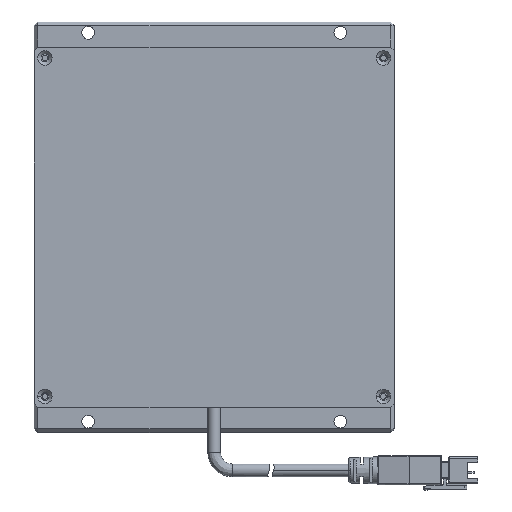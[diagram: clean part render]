
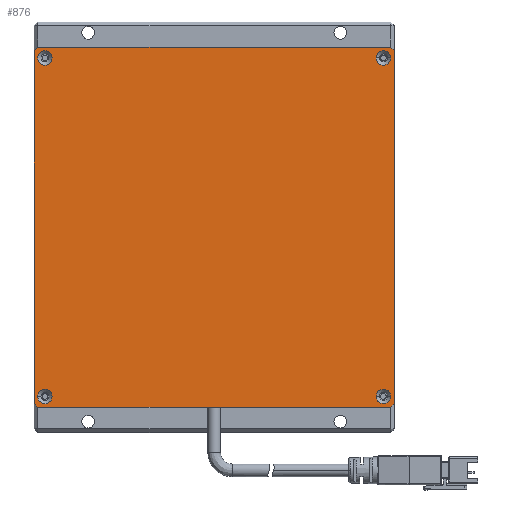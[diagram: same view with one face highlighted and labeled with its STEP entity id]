
A CAD part, top view. The second image highlights one B-rep face of the part: STEP entity #876.
In plain terms, the highlighted planar face has unit normal (0, 0, 1).
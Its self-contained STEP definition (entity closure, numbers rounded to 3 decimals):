
#20 = DIRECTION ( 'NONE',  ( 1., 0., 0. ) ) ;
#124 = AXIS2_PLACEMENT_3D ( 'NONE', #2387, #6393, #7849 ) ;
#209 = LINE ( 'NONE', #1080, #8712 ) ;
#248 = VECTOR ( 'NONE', #418, 1000. ) ;
#275 = DIRECTION ( 'NONE',  ( 1., 0., 0. ) ) ;
#287 = LINE ( 'NONE', #5778, #5285 ) ;
#323 = EDGE_CURVE ( 'NONE', #4652, #1446, #4066, .T. ) ;
#411 = DIRECTION ( 'NONE',  ( 0., -1., 0. ) ) ;
#418 = DIRECTION ( 'NONE',  ( 0., 1., 0. ) ) ;
#542 = FACE_BOUND ( 'NONE', #4070, .T. ) ;
#606 = DIRECTION ( 'NONE',  ( 1., 0., 0. ) ) ;
#725 = DIRECTION ( 'NONE',  ( 0., 0., 1. ) ) ;
#876 = ADVANCED_FACE ( 'NONE', ( #5039, #6847, #6530, #542, #6307 ), #4056, .F. ) ;
#998 = DIRECTION ( 'NONE',  ( -0.707, 0.707, 0. ) ) ;
#1041 = DIRECTION ( 'NONE',  ( 0., 0., 1. ) ) ;
#1060 = EDGE_CURVE ( 'NONE', #1251, #4838, #5546, .T. ) ;
#1067 = ORIENTED_EDGE ( 'NONE', *, *, #3858, .T. ) ;
#1080 = CARTESIAN_POINT ( 'NONE',  ( -50., 49., 20. ) ) ;
#1094 = EDGE_CURVE ( 'NONE', #4958, #2196, #5439, .T. ) ;
#1099 = CARTESIAN_POINT ( 'NONE',  ( -49., -50., 20. ) ) ;
#1117 = VERTEX_POINT ( 'NONE', #8683 ) ;
#1123 = DIRECTION ( 'NONE',  ( 1., 0., 0. ) ) ;
#1149 = VERTEX_POINT ( 'NONE', #1190 ) ;
#1190 = CARTESIAN_POINT ( 'NONE',  ( 45., -47., 20. ) ) ;
#1234 = CARTESIAN_POINT ( 'NONE',  ( 47., -47., 20. ) ) ;
#1251 = VERTEX_POINT ( 'NONE', #6088 ) ;
#1293 = DIRECTION ( 'NONE',  ( 0., 0., -1. ) ) ;
#1347 = EDGE_CURVE ( 'NONE', #8634, #4154, #8743, .T. ) ;
#1404 = EDGE_LOOP ( 'NONE', ( #8297, #4397, #4645, #2910, #2060, #3504, #6021, #1067 ) ) ;
#1446 = VERTEX_POINT ( 'NONE', #6418 ) ;
#1460 = DIRECTION ( 'NONE',  ( 1., 0., 0. ) ) ;
#1591 = CARTESIAN_POINT ( 'NONE',  ( -45., 47., 20. ) ) ;
#1660 = AXIS2_PLACEMENT_3D ( 'NONE', #3419, #6162, #20 ) ;
#1759 = DIRECTION ( 'NONE',  ( 0., 0., 1. ) ) ;
#1779 = LINE ( 'NONE', #7220, #2049 ) ;
#1828 = VERTEX_POINT ( 'NONE', #4939 ) ;
#1915 = EDGE_CURVE ( 'NONE', #4953, #2336, #8736, .T. ) ;
#2049 = VECTOR ( 'NONE', #7272, 1000. ) ;
#2060 = ORIENTED_EDGE ( 'NONE', *, *, #323, .T. ) ;
#2135 = VECTOR ( 'NONE', #4373, 1000. ) ;
#2196 = VERTEX_POINT ( 'NONE', #6694 ) ;
#2231 = ORIENTED_EDGE ( 'NONE', *, *, #4817, .F. ) ;
#2336 = VERTEX_POINT ( 'NONE', #5609 ) ;
#2387 = CARTESIAN_POINT ( 'NONE',  ( -47., -47., 20. ) ) ;
#2706 = EDGE_LOOP ( 'NONE', ( #5951, #7276 ) ) ;
#2792 = EDGE_LOOP ( 'NONE', ( #6367, #8650 ) ) ;
#2825 = ORIENTED_EDGE ( 'NONE', *, *, #1060, .F. ) ;
#2896 = EDGE_CURVE ( 'NONE', #5247, #1117, #5754, .T. ) ;
#2910 = ORIENTED_EDGE ( 'NONE', *, *, #4554, .T. ) ;
#2963 = CARTESIAN_POINT ( 'NONE',  ( 49., 47., 20. ) ) ;
#2965 = CARTESIAN_POINT ( 'NONE',  ( -47., -47., 20. ) ) ;
#2966 = CIRCLE ( 'NONE', #4038, 2. ) ;
#3012 = CARTESIAN_POINT ( 'NONE',  ( 49., -47., 20. ) ) ;
#3052 = EDGE_CURVE ( 'NONE', #4154, #8634, #2966, .T. ) ;
#3131 = CARTESIAN_POINT ( 'NONE',  ( -47., 47., 20. ) ) ;
#3191 = CARTESIAN_POINT ( 'NONE',  ( -47., 47., 20. ) ) ;
#3232 = DIRECTION ( 'NONE',  ( 0.707, -0.707, 0. ) ) ;
#3231 = CARTESIAN_POINT ( 'NONE',  ( 47., 47., 20. ) ) ;
#3249 = DIRECTION ( 'NONE',  ( 0., 0., 1. ) ) ;
#3251 = DIRECTION ( 'NONE',  ( -1., 0., 0. ) ) ;
#3309 = CARTESIAN_POINT ( 'NONE',  ( 0., 0., 20. ) ) ;
#3397 = EDGE_CURVE ( 'NONE', #1149, #5595, #3502, .T. ) ;
#3419 = CARTESIAN_POINT ( 'NONE',  ( 47., -47., 20. ) ) ;
#3502 = CIRCLE ( 'NONE', #7866, 2. ) ;
#3504 = ORIENTED_EDGE ( 'NONE', *, *, #6897, .T. ) ;
#3711 = AXIS2_PLACEMENT_3D ( 'NONE', #3131, #1041, #1123 ) ;
#3713 = CIRCLE ( 'NONE', #1660, 2. ) ;
#3714 = CARTESIAN_POINT ( 'NONE',  ( -50., -50., 20. ) ) ;
#3752 = AXIS2_PLACEMENT_3D ( 'NONE', #4854, #725, #1460 ) ;
#3858 = EDGE_CURVE ( 'NONE', #2336, #1828, #209, .T. ) ;
#4038 = AXIS2_PLACEMENT_3D ( 'NONE', #3231, #8769, #606 ) ;
#4056 = PLANE ( 'NONE',  #4779 ) ;
#4066 = LINE ( 'NONE', #7176, #248 ) ;
#4070 = EDGE_LOOP ( 'NONE', ( #6758, #2825 ) ) ;
#4154 = VERTEX_POINT ( 'NONE', #2963 ) ;
#4373 = DIRECTION ( 'NONE',  ( -1., 0., 0. ) ) ;
#4397 = ORIENTED_EDGE ( 'NONE', *, *, #1094, .T. ) ;
#4554 = EDGE_CURVE ( 'NONE', #8820, #4652, #1779, .T. ) ;
#4613 = DIRECTION ( 'NONE',  ( 1., 0., 0. ) ) ;
#4645 = ORIENTED_EDGE ( 'NONE', *, *, #6218, .T. ) ;
#4652 = VERTEX_POINT ( 'NONE', #6044 ) ;
#4664 = LINE ( 'NONE', #3714, #6790 ) ;
#4731 = CARTESIAN_POINT ( 'NONE',  ( -49., -47., 20. ) ) ;
#4779 = AXIS2_PLACEMENT_3D ( 'NONE', #3309, #1293, #3251 ) ;
#4817 = EDGE_CURVE ( 'NONE', #5595, #1149, #3713, .T. ) ;
#4838 = VERTEX_POINT ( 'NONE', #1591 ) ;
#4854 = CARTESIAN_POINT ( 'NONE',  ( 47., 47., 20. ) ) ;
#4903 = CARTESIAN_POINT ( 'NONE',  ( 49., -50., 20. ) ) ;
#4939 = CARTESIAN_POINT ( 'NONE',  ( -50., 49., 20. ) ) ;
#4953 = VERTEX_POINT ( 'NONE', #6504 ) ;
#4958 = VERTEX_POINT ( 'NONE', #8513 ) ;
#5039 = FACE_BOUND ( 'NONE', #2706, .T. ) ;
#5044 = EDGE_LOOP ( 'NONE', ( #2231, #5098 ) ) ;
#5098 = ORIENTED_EDGE ( 'NONE', *, *, #3397, .F. ) ;
#5197 = DIRECTION ( 'NONE',  ( 1., 0., 0. ) ) ;
#5229 = AXIS2_PLACEMENT_3D ( 'NONE', #3191, #1759, #4613 ) ;
#5247 = VERTEX_POINT ( 'NONE', #4731 ) ;
#5285 = VECTOR ( 'NONE', #6532, 1000. ) ;
#5439 = LINE ( 'NONE', #1099, #8638 ) ;
#5546 = CIRCLE ( 'NONE', #5229, 2. ) ;
#5595 = VERTEX_POINT ( 'NONE', #3012 ) ;
#5609 = CARTESIAN_POINT ( 'NONE',  ( -49., 50., 20. ) ) ;
#5618 = EDGE_CURVE ( 'NONE', #1828, #4958, #4664, .T. ) ;
#5638 = EDGE_CURVE ( 'NONE', #4838, #1251, #7431, .T. ) ;
#5754 = CIRCLE ( 'NONE', #6502, 2. ) ;
#5778 = CARTESIAN_POINT ( 'NONE',  ( -50., -50., 20. ) ) ;
#5951 = ORIENTED_EDGE ( 'NONE', *, *, #6837, .F. ) ;
#6021 = ORIENTED_EDGE ( 'NONE', *, *, #1915, .T. ) ;
#6044 = CARTESIAN_POINT ( 'NONE',  ( 50., -49., 20. ) ) ;
#6088 = CARTESIAN_POINT ( 'NONE',  ( -49., 47., 20. ) ) ;
#6162 = DIRECTION ( 'NONE',  ( 0., 0., 1. ) ) ;
#6218 = EDGE_CURVE ( 'NONE', #2196, #8820, #287, .T. ) ;
#6307 = FACE_OUTER_BOUND ( 'NONE', #1404, .T. ) ;
#6367 = ORIENTED_EDGE ( 'NONE', *, *, #3052, .F. ) ;
#6393 = DIRECTION ( 'NONE',  ( 0., 0., 1. ) ) ;
#6418 = CARTESIAN_POINT ( 'NONE',  ( 50., 49., 20. ) ) ;
#6491 = CARTESIAN_POINT ( 'NONE',  ( -50., 50., 20. ) ) ;
#6502 = AXIS2_PLACEMENT_3D ( 'NONE', #2965, #8478, #275 ) ;
#6504 = CARTESIAN_POINT ( 'NONE',  ( 49., 50., 20. ) ) ;
#6517 = CARTESIAN_POINT ( 'NONE',  ( 49., 50., 20. ) ) ;
#6530 = FACE_BOUND ( 'NONE', #2792, .T. ) ;
#6532 = DIRECTION ( 'NONE',  ( 1., 0., 0. ) ) ;
#6694 = CARTESIAN_POINT ( 'NONE',  ( -49., -50., 20. ) ) ;
#6758 = ORIENTED_EDGE ( 'NONE', *, *, #5638, .F. ) ;
#6790 = VECTOR ( 'NONE', #411, 1000. ) ;
#6837 = EDGE_CURVE ( 'NONE', #1117, #5247, #8580, .T. ) ;
#6847 = FACE_BOUND ( 'NONE', #5044, .T. ) ;
#6897 = EDGE_CURVE ( 'NONE', #1446, #4953, #8152, .T. ) ;
#7176 = CARTESIAN_POINT ( 'NONE',  ( 50., -50., 20. ) ) ;
#7220 = CARTESIAN_POINT ( 'NONE',  ( 50., -49., 20. ) ) ;
#7272 = DIRECTION ( 'NONE',  ( 0.707, 0.707, 0. ) ) ;
#7276 = ORIENTED_EDGE ( 'NONE', *, *, #2896, .F. ) ;
#7431 = CIRCLE ( 'NONE', #3711, 2. ) ;
#7849 = DIRECTION ( 'NONE',  ( 1., 0., 0. ) ) ;
#7866 = AXIS2_PLACEMENT_3D ( 'NONE', #1234, #3249, #5197 ) ;
#8152 = LINE ( 'NONE', #6517, #8469 ) ;
#8193 = CARTESIAN_POINT ( 'NONE',  ( 45., 47., 20. ) ) ;
#8297 = ORIENTED_EDGE ( 'NONE', *, *, #5618, .T. ) ;
#8469 = VECTOR ( 'NONE', #998, 1000. ) ;
#8478 = DIRECTION ( 'NONE',  ( 0., 0., 1. ) ) ;
#8513 = CARTESIAN_POINT ( 'NONE',  ( -50., -49., 20. ) ) ;
#8580 = CIRCLE ( 'NONE', #124, 2. ) ;
#8603 = DIRECTION ( 'NONE',  ( -0.707, -0.707, 0. ) ) ;
#8634 = VERTEX_POINT ( 'NONE', #8193 ) ;
#8638 = VECTOR ( 'NONE', #3232, 1000. ) ;
#8650 = ORIENTED_EDGE ( 'NONE', *, *, #1347, .F. ) ;
#8683 = CARTESIAN_POINT ( 'NONE',  ( -45., -47., 20. ) ) ;
#8712 = VECTOR ( 'NONE', #8603, 1000. ) ;
#8736 = LINE ( 'NONE', #6491, #2135 ) ;
#8743 = CIRCLE ( 'NONE', #3752, 2. ) ;
#8769 = DIRECTION ( 'NONE',  ( 0., 0., 1. ) ) ;
#8820 = VERTEX_POINT ( 'NONE', #4903 ) ;
